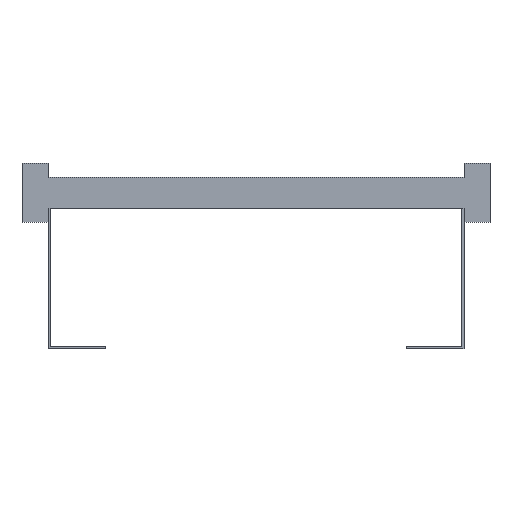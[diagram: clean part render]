
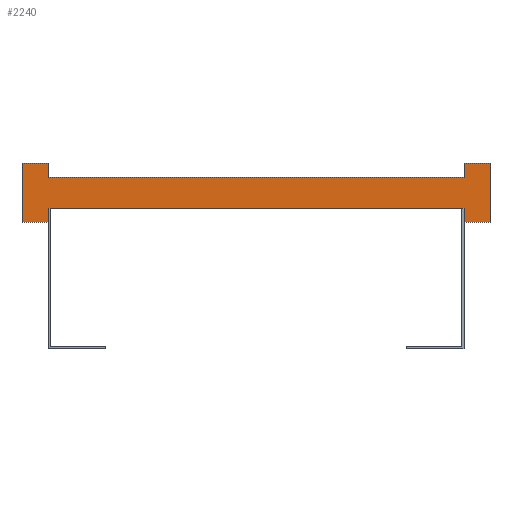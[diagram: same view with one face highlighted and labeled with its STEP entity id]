
A CAD part, front view. The second image highlights one B-rep face of the part: STEP entity #2240.
In plain terms, the highlighted planar face has unit normal (0, -1, 0).
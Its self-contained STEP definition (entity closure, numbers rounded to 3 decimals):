
#1=DIRECTION('',(0.,0.,1.));
#2=VECTOR('',#1,13.5);
#3=CARTESIAN_POINT('',(200.,0.,-28.5));
#4=LINE('',#3,#2);
#5=DIRECTION('',(0.,0.,-1.));
#6=VECTOR('',#5,13.5);
#7=CARTESIAN_POINT('',(-200.,0.,-15.));
#8=LINE('',#7,#6);
#9=DIRECTION('',(-1.,0.,0.));
#10=VECTOR('',#9,25.);
#11=CARTESIAN_POINT('',(-200.,0.,-28.5));
#12=LINE('',#11,#10);
#13=DIRECTION('',(0.,0.,1.));
#14=VECTOR('',#13,57.);
#15=CARTESIAN_POINT('',(-225.,0.,-28.5));
#16=LINE('',#15,#14);
#17=DIRECTION('',(1.,0.,0.));
#18=VECTOR('',#17,25.);
#19=CARTESIAN_POINT('',(-225.,0.,28.5));
#20=LINE('',#19,#18);
#21=DIRECTION('',(0.,0.,-1.));
#22=VECTOR('',#21,13.5);
#23=CARTESIAN_POINT('',(-200.,0.,28.5));
#24=LINE('',#23,#22);
#25=DIRECTION('',(0.,0.,1.));
#26=VECTOR('',#25,13.5);
#27=CARTESIAN_POINT('',(200.,0.,15.));
#28=LINE('',#27,#26);
#29=DIRECTION('',(1.,0.,0.));
#30=VECTOR('',#29,25.);
#31=CARTESIAN_POINT('',(200.,0.,28.5));
#32=LINE('',#31,#30);
#33=DIRECTION('',(0.,0.,-1.));
#34=VECTOR('',#33,57.);
#35=CARTESIAN_POINT('',(225.,0.,28.5));
#36=LINE('',#35,#34);
#37=DIRECTION('',(-1.,0.,0.));
#38=VECTOR('',#37,25.);
#39=CARTESIAN_POINT('',(225.,0.,-28.5));
#40=LINE('',#39,#38);
#1649=DIRECTION('',(1.,0.,0.));
#1650=VECTOR('',#1649,400.);
#1651=CARTESIAN_POINT('',(-200.,0.,-15.));
#1652=LINE('',#1651,#1650);
#1661=DIRECTION('',(1.,0.,0.));
#1662=VECTOR('',#1661,400.);
#1663=CARTESIAN_POINT('',(-200.,0.,15.));
#1664=LINE('',#1663,#1662);
#1665=CARTESIAN_POINT('',(-225.,0.,28.5));
#1666=CARTESIAN_POINT('',(-200.,0.,28.5));
#1667=VERTEX_POINT('',#1665);
#1668=VERTEX_POINT('',#1666);
#1669=CARTESIAN_POINT('',(-200.,0.,-28.5));
#1670=CARTESIAN_POINT('',(-225.,0.,-28.5));
#1671=VERTEX_POINT('',#1669);
#1672=VERTEX_POINT('',#1670);
#1673=CARTESIAN_POINT('',(225.,0.,28.5));
#1674=CARTESIAN_POINT('',(225.,0.,-28.5));
#1675=VERTEX_POINT('',#1673);
#1676=VERTEX_POINT('',#1674);
#1677=CARTESIAN_POINT('',(200.,0.,-28.5));
#1678=VERTEX_POINT('',#1677);
#1679=CARTESIAN_POINT('',(200.,0.,28.5));
#1680=VERTEX_POINT('',#1679);
#1697=CARTESIAN_POINT('',(-200.,0.,-15.));
#1699=VERTEX_POINT('',#1697);
#1701=CARTESIAN_POINT('',(-200.,0.,15.));
#1703=VERTEX_POINT('',#1701);
#1705=CARTESIAN_POINT('',(200.,0.,-15.));
#1707=VERTEX_POINT('',#1705);
#1709=CARTESIAN_POINT('',(200.,0.,15.));
#1711=VERTEX_POINT('',#1709);
#2209=CARTESIAN_POINT('',(0.,0.,0.));
#2210=DIRECTION('',(0.,1.,0.));
#2211=DIRECTION('',(1.,0.,0.));
#2212=AXIS2_PLACEMENT_3D('',#2209,#2210,#2211);
#2213=PLANE('',#2212);
#2215=ORIENTED_EDGE('',*,*,#2214,.T.);
#2217=ORIENTED_EDGE('',*,*,#2216,.F.);
#2219=ORIENTED_EDGE('',*,*,#2218,.T.);
#2221=ORIENTED_EDGE('',*,*,#2220,.T.);
#2223=ORIENTED_EDGE('',*,*,#2222,.T.);
#2225=ORIENTED_EDGE('',*,*,#2224,.T.);
#2227=ORIENTED_EDGE('',*,*,#2226,.T.);
#2229=ORIENTED_EDGE('',*,*,#2228,.T.);
#2231=ORIENTED_EDGE('',*,*,#2230,.T.);
#2233=ORIENTED_EDGE('',*,*,#2232,.T.);
#2235=ORIENTED_EDGE('',*,*,#2234,.T.);
#2237=ORIENTED_EDGE('',*,*,#2236,.T.);
#2238=EDGE_LOOP('',(#2215,#2217,#2219,#2221,#2223,#2225,#2227,#2229,#2231,#2233,
#2235,#2237));
#2239=FACE_OUTER_BOUND('',#2238,.F.);
#2240=ADVANCED_FACE('',(#2239),#2213,.F.);
#2214=EDGE_CURVE('',#1678,#1707,#4,.T.);
#2216=EDGE_CURVE('',#1699,#1707,#1652,.T.);
#2218=EDGE_CURVE('',#1699,#1671,#8,.T.);
#2220=EDGE_CURVE('',#1671,#1672,#12,.T.);
#2222=EDGE_CURVE('',#1672,#1667,#16,.T.);
#2224=EDGE_CURVE('',#1667,#1668,#20,.T.);
#2226=EDGE_CURVE('',#1668,#1703,#24,.T.);
#2228=EDGE_CURVE('',#1703,#1711,#1664,.T.);
#2230=EDGE_CURVE('',#1711,#1680,#28,.T.);
#2232=EDGE_CURVE('',#1680,#1675,#32,.T.);
#2234=EDGE_CURVE('',#1675,#1676,#36,.T.);
#2236=EDGE_CURVE('',#1676,#1678,#40,.T.);
